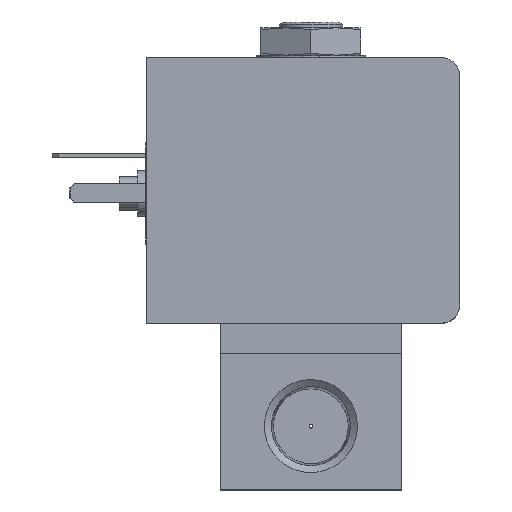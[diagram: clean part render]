
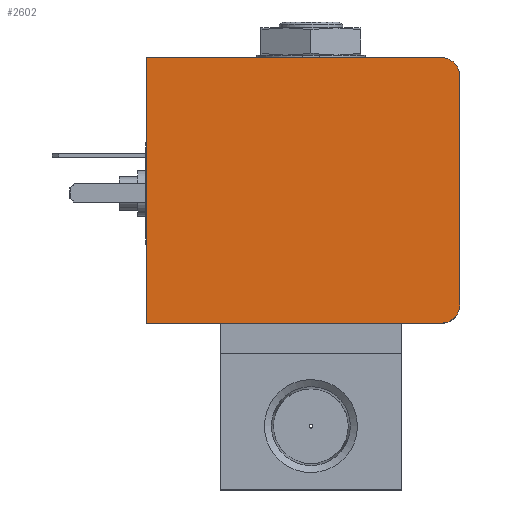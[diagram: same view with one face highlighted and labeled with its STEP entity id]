
A CAD part, top view. The second image highlights one B-rep face of the part: STEP entity #2602.
In plain terms, the highlighted planar face has unit normal (0, 0, 1).
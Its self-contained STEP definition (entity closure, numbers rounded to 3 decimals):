
#87=CIRCLE('',#2726,2.);
#89=CIRCLE('',#2730,2.);
#179=ORIENTED_EDGE('',*,*,#634,.T.);
#180=ORIENTED_EDGE('',*,*,#647,.T.);
#181=ORIENTED_EDGE('',*,*,#654,.T.);
#182=ORIENTED_EDGE('',*,*,#657,.T.);
#183=ORIENTED_EDGE('',*,*,#660,.T.);
#184=ORIENTED_EDGE('',*,*,#662,.T.);
#634=EDGE_CURVE('',#880,#879,#1050,.T.);
#647=EDGE_CURVE('',#879,#891,#1060,.T.);
#654=EDGE_CURVE('',#891,#897,#1067,.T.);
#657=EDGE_CURVE('',#897,#899,#87,.T.);
#660=EDGE_CURVE('',#899,#901,#1071,.T.);
#662=EDGE_CURVE('',#901,#880,#89,.T.);
#879=VERTEX_POINT('',#3416);
#880=VERTEX_POINT('',#3418);
#891=VERTEX_POINT('',#3442);
#897=VERTEX_POINT('',#3456);
#899=VERTEX_POINT('',#3462);
#901=VERTEX_POINT('',#3468);
#1050=LINE('',#3417,#1212);
#1060=LINE('',#3443,#1222);
#1067=LINE('',#3457,#1229);
#1071=LINE('',#3469,#1233);
#1212=VECTOR('',#2900,1000.);
#1222=VECTOR('',#2918,1000.);
#1229=VECTOR('',#2927,1000.);
#1233=VECTOR('',#2939,1000.);
#1381=EDGE_LOOP('',(#179,#180,#181,#182,#183,#184));
#1543=FACE_BOUND('',#1381,.T.);
#1700=PLANE('',#2731);
#2602=ADVANCED_FACE('',(#1543),#1700,.T.);
#2726=AXIS2_PLACEMENT_3D('',#3463,#2933,#2934);
#2730=AXIS2_PLACEMENT_3D('',#3472,#2944,#2945);
#2731=AXIS2_PLACEMENT_3D('',#3473,#2946,#2947);
#2900=DIRECTION('',(-1.,0.,0.));
#2918=DIRECTION('',(0.,-1.,0.));
#2927=DIRECTION('',(1.,0.,0.));
#2933=DIRECTION('',(0.,0.,1.));
#2934=DIRECTION('',(1.,0.,0.));
#2939=DIRECTION('',(0.,1.,0.));
#2944=DIRECTION('',(0.,0.,1.));
#2945=DIRECTION('',(1.,0.,0.));
#2946=DIRECTION('',(0.,0.,1.));
#2947=DIRECTION('',(1.,0.,0.));
#3416=CARTESIAN_POINT('',(-18.1,29.25,12.3));
#3417=CARTESIAN_POINT('',(14.4,29.25,12.3));
#3418=CARTESIAN_POINT('',(14.4,29.25,12.3));
#3442=CARTESIAN_POINT('',(-18.1,0.,12.3));
#3443=CARTESIAN_POINT('',(-18.1,29.25,12.3));
#3456=CARTESIAN_POINT('',(14.4,0.,12.3));
#3457=CARTESIAN_POINT('',(-18.1,0.,12.3));
#3462=CARTESIAN_POINT('',(16.4,2.,12.3));
#3463=CARTESIAN_POINT('',(14.4,2.,12.3));
#3468=CARTESIAN_POINT('',(16.4,27.25,12.3));
#3469=CARTESIAN_POINT('',(16.4,2.,12.3));
#3472=CARTESIAN_POINT('',(14.4,27.25,12.3));
#3473=CARTESIAN_POINT('',(14.4,2.,12.3));
